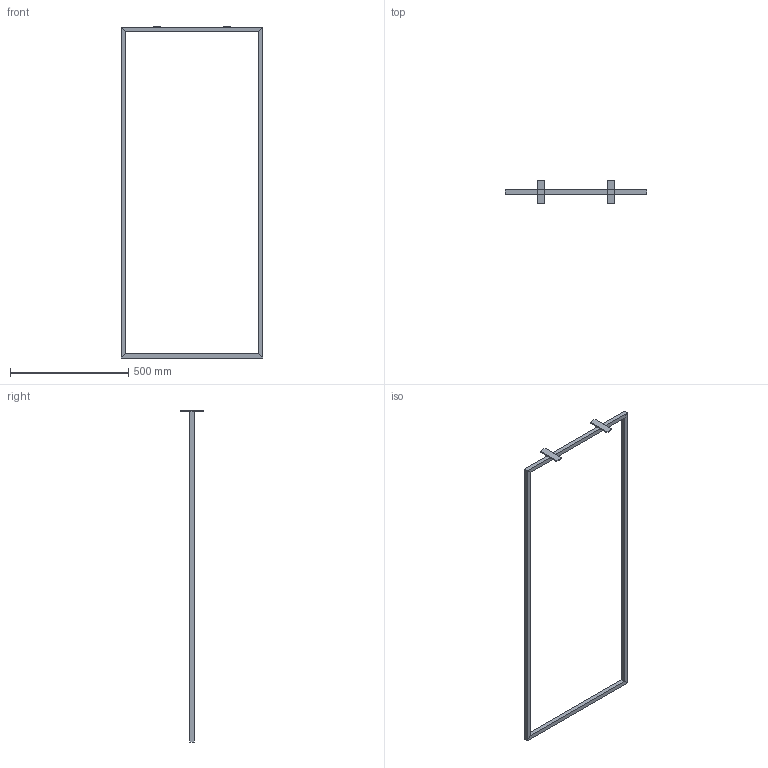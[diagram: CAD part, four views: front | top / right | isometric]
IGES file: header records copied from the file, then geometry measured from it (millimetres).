
Global section: file name: D:\Desktop\GIOVANNI\SCHEDE PRODOTTO\ACCESSORI\SERVETTO\3D\MOMA DESIGN_ACCESSORI_SERVETTO 2.igs; native system: Rhinoceros ( Jan 17 2018 ); preprocessor: Trout Lake IGES 012 Jan 17 2018; date: 230523.113701; units: millimetre
Bounding box: 600.19 x 100 x 1404.86 mm (x, y, z)
Surface area: 301527.1 mm2 (no closed solid volume)
Topology: 0 solids, 0 shells, 36 faces, 168 edges, 168 vertices
Faces by surface type: bspline 36
